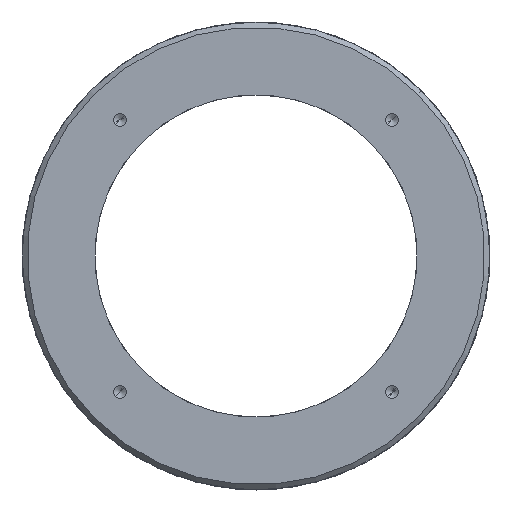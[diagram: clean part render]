
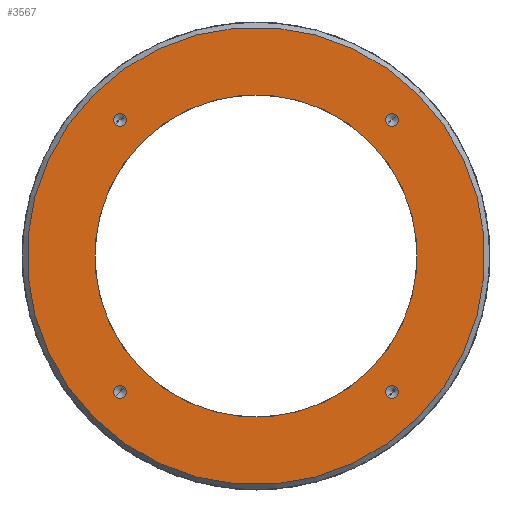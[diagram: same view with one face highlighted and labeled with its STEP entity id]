
A CAD part, front view. The second image highlights one B-rep face of the part: STEP entity #3567.
In plain terms, the highlighted planar face has unit normal (0, -1, 0).
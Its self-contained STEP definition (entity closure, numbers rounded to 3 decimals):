
#12 = DIRECTION ( 'NONE',  ( 0., 0., -1. ) ) ;
#39 = AXIS2_PLACEMENT_3D ( 'NONE', #1408, #6984, #4107 ) ;
#48 = EDGE_LOOP ( 'NONE', ( #6838, #636 ) ) ;
#63 = DIRECTION ( 'NONE',  ( 0., 0., -1. ) ) ;
#93 = DIRECTION ( 'NONE',  ( 0., -1., 0. ) ) ;
#188 = DIRECTION ( 'NONE',  ( 0., -1., 0. ) ) ;
#220 = EDGE_CURVE ( 'NONE', #4939, #5441, #6337, .T. ) ;
#324 = AXIS2_PLACEMENT_3D ( 'NONE', #2589, #4910, #6058 ) ;
#359 = CARTESIAN_POINT ( 'NONE',  ( 0., 0., 35.75 ) ) ;
#412 = ORIENTED_EDGE ( 'NONE', *, *, #2908, .F. ) ;
#515 = AXIS2_PLACEMENT_3D ( 'NONE', #7035, #4689, #63 ) ;
#521 = VERTEX_POINT ( 'NONE', #3034 ) ;
#595 = CARTESIAN_POINT ( 'NONE',  ( 0., 0., 0. ) ) ;
#598 = VERTEX_POINT ( 'NONE', #6079 ) ;
#636 = ORIENTED_EDGE ( 'NONE', *, *, #5917, .F. ) ;
#697 = VERTEX_POINT ( 'NONE', #4309 ) ;
#707 = ORIENTED_EDGE ( 'NONE', *, *, #4381, .F. ) ;
#746 = AXIS2_PLACEMENT_3D ( 'NONE', #2088, #7262, #6106 ) ;
#800 = VERTEX_POINT ( 'NONE', #6209 ) ;
#900 = EDGE_CURVE ( 'NONE', #697, #3010, #6503, .T. ) ;
#1017 = CIRCLE ( 'NONE', #324, 44. ) ;
#1223 = DIRECTION ( 'NONE',  ( 0., -1., 0. ) ) ;
#1238 = CARTESIAN_POINT ( 'NONE',  ( 0., 0., 0. ) ) ;
#1249 = EDGE_CURVE ( 'NONE', #5650, #3380, #2191, .T. ) ;
#1350 = CIRCLE ( 'NONE', #6928, 1.25 ) ;
#1360 = CARTESIAN_POINT ( 'NONE',  ( 0., 0., 37. ) ) ;
#1408 = CARTESIAN_POINT ( 'NONE',  ( 0., 0., -37. ) ) ;
#1434 = CARTESIAN_POINT ( 'NONE',  ( -37., 0., 1.25 ) ) ;
#1535 = CIRCLE ( 'NONE', #2263, 1.25 ) ;
#1698 = ORIENTED_EDGE ( 'NONE', *, *, #5103, .F. ) ;
#1700 = VERTEX_POINT ( 'NONE', #6908 ) ;
#1721 = DIRECTION ( 'NONE',  ( 0., -1., 0. ) ) ;
#1943 = DIRECTION ( 'NONE',  ( 0., 0., -1. ) ) ;
#1985 = CIRCLE ( 'NONE', #3332, 1.25 ) ;
#2025 = DIRECTION ( 'NONE',  ( 0., 0., -1. ) ) ;
#2088 = CARTESIAN_POINT ( 'NONE',  ( 37., 0., 0. ) ) ;
#2174 = FACE_BOUND ( 'NONE', #2314, .T. ) ;
#2191 = CIRCLE ( 'NONE', #515, 1.25 ) ;
#2263 = AXIS2_PLACEMENT_3D ( 'NONE', #7141, #3700, #4316 ) ;
#2314 = EDGE_LOOP ( 'NONE', ( #1698, #6217 ) ) ;
#2397 = ORIENTED_EDGE ( 'NONE', *, *, #5216, .F. ) ;
#2589 = CARTESIAN_POINT ( 'NONE',  ( 0., 0., 0. ) ) ;
#2603 = CARTESIAN_POINT ( 'NONE',  ( 0., 0., -31. ) ) ;
#2708 = CIRCLE ( 'NONE', #6167, 31. ) ;
#2908 = EDGE_CURVE ( 'NONE', #3380, #5650, #3445, .T. ) ;
#2923 = EDGE_CURVE ( 'NONE', #800, #1700, #1017, .T. ) ;
#2930 = AXIS2_PLACEMENT_3D ( 'NONE', #1238, #93, #4770 ) ;
#3010 = VERTEX_POINT ( 'NONE', #5264 ) ;
#3034 = CARTESIAN_POINT ( 'NONE',  ( 0., 0., -35.75 ) ) ;
#3221 = ORIENTED_EDGE ( 'NONE', *, *, #4864, .T. ) ;
#3262 = DIRECTION ( 'NONE',  ( 0., -1., 0. ) ) ;
#3332 = AXIS2_PLACEMENT_3D ( 'NONE', #4356, #3262, #4425 ) ;
#3380 = VERTEX_POINT ( 'NONE', #359 ) ;
#3439 = FACE_BOUND ( 'NONE', #5181, .T. ) ;
#3445 = CIRCLE ( 'NONE', #6001, 1.25 ) ;
#3567 = ADVANCED_FACE ( 'NONE', ( #5319, #3439, #6481, #2174, #4971, #4439 ), #6769, .T. ) ;
#3599 = AXIS2_PLACEMENT_3D ( 'NONE', #595, #1223, #6359 ) ;
#3610 = AXIS2_PLACEMENT_3D ( 'NONE', #3651, #188, #1943 ) ;
#3651 = CARTESIAN_POINT ( 'NONE',  ( 37., 0., 0. ) ) ;
#3700 = DIRECTION ( 'NONE',  ( 0., -1., 0. ) ) ;
#4089 = EDGE_LOOP ( 'NONE', ( #3221, #4108 ) ) ;
#4107 = DIRECTION ( 'NONE',  ( 0., 0., -1. ) ) ;
#4108 = ORIENTED_EDGE ( 'NONE', *, *, #2923, .T. ) ;
#4112 = CARTESIAN_POINT ( 'NONE',  ( 0., 0., 31. ) ) ;
#4309 = CARTESIAN_POINT ( 'NONE',  ( 37., 0., 1.25 ) ) ;
#4316 = DIRECTION ( 'NONE',  ( 0., 0., -1. ) ) ;
#4356 = CARTESIAN_POINT ( 'NONE',  ( 0., 0., -37. ) ) ;
#4370 = CARTESIAN_POINT ( 'NONE',  ( -37., 0., 0. ) ) ;
#4381 = EDGE_CURVE ( 'NONE', #598, #521, #7099, .T. ) ;
#4425 = DIRECTION ( 'NONE',  ( 0., 0., -1. ) ) ;
#4439 = FACE_BOUND ( 'NONE', #4929, .T. ) ;
#4596 = CARTESIAN_POINT ( 'NONE',  ( 0., 0., 0. ) ) ;
#4681 = CIRCLE ( 'NONE', #3610, 1.25 ) ;
#4689 = DIRECTION ( 'NONE',  ( 0., -1., 0. ) ) ;
#4770 = DIRECTION ( 'NONE',  ( 0., 0., -1. ) ) ;
#4864 = EDGE_CURVE ( 'NONE', #1700, #800, #7113, .T. ) ;
#4889 = DIRECTION ( 'NONE',  ( 0., -1., 0. ) ) ;
#4910 = DIRECTION ( 'NONE',  ( 0., -1., 0. ) ) ;
#4915 = DIRECTION ( 'NONE',  ( 0., 0., -1. ) ) ;
#4921 = VERTEX_POINT ( 'NONE', #6965 ) ;
#4929 = EDGE_LOOP ( 'NONE', ( #5609, #5364 ) ) ;
#4939 = VERTEX_POINT ( 'NONE', #4112 ) ;
#4971 = FACE_BOUND ( 'NONE', #6188, .T. ) ;
#5103 = EDGE_CURVE ( 'NONE', #3010, #697, #4681, .T. ) ;
#5109 = CARTESIAN_POINT ( 'NONE',  ( 31., 0., 0. ) ) ;
#5181 = EDGE_LOOP ( 'NONE', ( #412, #5829 ) ) ;
#5216 = EDGE_CURVE ( 'NONE', #521, #598, #1985, .T. ) ;
#5264 = CARTESIAN_POINT ( 'NONE',  ( 37., 0., -1.25 ) ) ;
#5319 = FACE_OUTER_BOUND ( 'NONE', #4089, .T. ) ;
#5364 = ORIENTED_EDGE ( 'NONE', *, *, #220, .F. ) ;
#5441 = VERTEX_POINT ( 'NONE', #2603 ) ;
#5515 = EDGE_CURVE ( 'NONE', #5441, #4939, #2708, .T. ) ;
#5609 = ORIENTED_EDGE ( 'NONE', *, *, #5515, .F. ) ;
#5628 = DIRECTION ( 'NONE',  ( 0., 0., -1. ) ) ;
#5650 = VERTEX_POINT ( 'NONE', #7030 ) ;
#5829 = ORIENTED_EDGE ( 'NONE', *, *, #1249, .F. ) ;
#5917 = EDGE_CURVE ( 'NONE', #7309, #4921, #1350, .T. ) ;
#6001 = AXIS2_PLACEMENT_3D ( 'NONE', #1360, #7117, #2025 ) ;
#6058 = DIRECTION ( 'NONE',  ( 0., 0., -1. ) ) ;
#6079 = CARTESIAN_POINT ( 'NONE',  ( 0., 0., -38.25 ) ) ;
#6106 = DIRECTION ( 'NONE',  ( 0., 0., -1. ) ) ;
#6167 = AXIS2_PLACEMENT_3D ( 'NONE', #4596, #1721, #12 ) ;
#6188 = EDGE_LOOP ( 'NONE', ( #707, #2397 ) ) ;
#6209 = CARTESIAN_POINT ( 'NONE',  ( 0., 0., -44. ) ) ;
#6217 = ORIENTED_EDGE ( 'NONE', *, *, #900, .F. ) ;
#6267 = DIRECTION ( 'NONE',  ( 0., -1., 0. ) ) ;
#6337 = CIRCLE ( 'NONE', #3599, 31. ) ;
#6359 = DIRECTION ( 'NONE',  ( 0., 0., -1. ) ) ;
#6481 = FACE_BOUND ( 'NONE', #48, .T. ) ;
#6503 = CIRCLE ( 'NONE', #746, 1.25 ) ;
#6587 = AXIS2_PLACEMENT_3D ( 'NONE', #5109, #6267, #5628 ) ;
#6769 = PLANE ( 'NONE',  #6587 ) ;
#6838 = ORIENTED_EDGE ( 'NONE', *, *, #7174, .F. ) ;
#6908 = CARTESIAN_POINT ( 'NONE',  ( 0., 0., 44. ) ) ;
#6928 = AXIS2_PLACEMENT_3D ( 'NONE', #4370, #4889, #4915 ) ;
#6965 = CARTESIAN_POINT ( 'NONE',  ( -37., 0., -1.25 ) ) ;
#6984 = DIRECTION ( 'NONE',  ( 0., -1., 0. ) ) ;
#7030 = CARTESIAN_POINT ( 'NONE',  ( 0., 0., 38.25 ) ) ;
#7035 = CARTESIAN_POINT ( 'NONE',  ( 0., 0., 37. ) ) ;
#7099 = CIRCLE ( 'NONE', #39, 1.25 ) ;
#7113 = CIRCLE ( 'NONE', #2930, 44. ) ;
#7117 = DIRECTION ( 'NONE',  ( 0., -1., 0. ) ) ;
#7141 = CARTESIAN_POINT ( 'NONE',  ( -37., 0., 0. ) ) ;
#7174 = EDGE_CURVE ( 'NONE', #4921, #7309, #1535, .T. ) ;
#7262 = DIRECTION ( 'NONE',  ( 0., -1., 0. ) ) ;
#7309 = VERTEX_POINT ( 'NONE', #1434 ) ;
